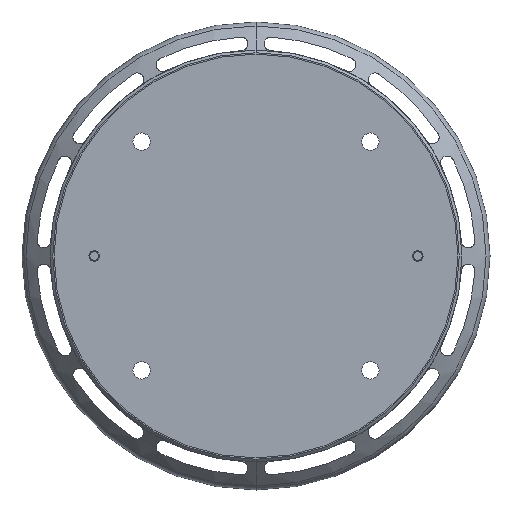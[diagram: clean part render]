
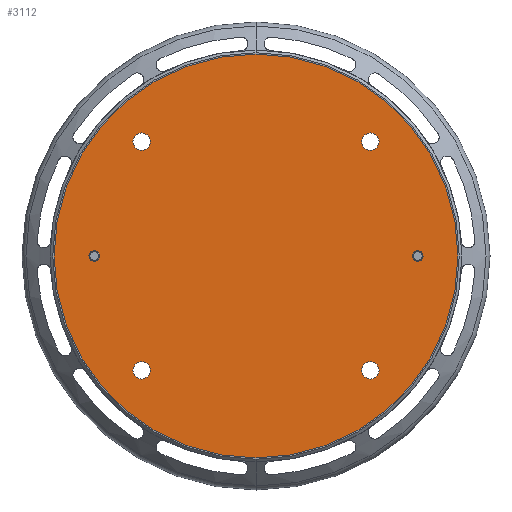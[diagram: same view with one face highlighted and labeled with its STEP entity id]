
A CAD part, front view. The second image highlights one B-rep face of the part: STEP entity #3112.
In plain terms, the highlighted planar face has unit normal (0, -1, 0).
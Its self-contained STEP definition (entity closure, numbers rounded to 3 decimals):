
#38 = DIRECTION ( 'NONE',  ( 0., -1., 0. ) ) ;
#58 = CARTESIAN_POINT ( 'NONE',  ( -37.44, -3.5, 0. ) ) ;
#68 = AXIS2_PLACEMENT_3D ( 'NONE', #409, #3932, #3492 ) ;
#115 = CIRCLE ( 'NONE', #2066, 0.975 ) ;
#136 = CARTESIAN_POINT ( 'NONE',  ( -21.213, -3.5, -21.213 ) ) ;
#178 = AXIS2_PLACEMENT_3D ( 'NONE', #4611, #4592, #1526 ) ;
#192 = VERTEX_POINT ( 'NONE', #4056 ) ;
#230 = CARTESIAN_POINT ( 'NONE',  ( -21.213, -3.5, 19.613 ) ) ;
#245 = DIRECTION ( 'NONE',  ( 0., 0., 1. ) ) ;
#272 = CARTESIAN_POINT ( 'NONE',  ( -30., -3.5, 0.975 ) ) ;
#394 = CIRCLE ( 'NONE', #5426, 1.6 ) ;
#409 = CARTESIAN_POINT ( 'NONE',  ( 0., -3.5, 0. ) ) ;
#466 = AXIS2_PLACEMENT_3D ( 'NONE', #5053, #1521, #3287 ) ;
#497 = PLANE ( 'NONE',  #2166 ) ;
#530 = DIRECTION ( 'NONE',  ( 0., 0., 1. ) ) ;
#618 = CARTESIAN_POINT ( 'NONE',  ( -21.213, -3.5, 21.213 ) ) ;
#649 = CIRCLE ( 'NONE', #2660, 1.6 ) ;
#670 = CIRCLE ( 'NONE', #466, 0.975 ) ;
#800 = ORIENTED_EDGE ( 'NONE', *, *, #4213, .T. ) ;
#818 = EDGE_CURVE ( 'NONE', #5027, #4876, #4511, .T. ) ;
#852 = EDGE_CURVE ( 'NONE', #4713, #4001, #5672, .T. ) ;
#869 = ORIENTED_EDGE ( 'NONE', *, *, #2417, .T. ) ;
#870 = CARTESIAN_POINT ( 'NONE',  ( 21.213, -3.5, -21.213 ) ) ;
#1005 = DIRECTION ( 'NONE',  ( 0., 1., 0. ) ) ;
#1081 = CIRCLE ( 'NONE', #5533, 1.6 ) ;
#1163 = AXIS2_PLACEMENT_3D ( 'NONE', #3887, #5208, #3428 ) ;
#1236 = ORIENTED_EDGE ( 'NONE', *, *, #818, .T. ) ;
#1267 = CARTESIAN_POINT ( 'NONE',  ( -21.213, -3.5, 22.813 ) ) ;
#1287 = EDGE_CURVE ( 'NONE', #3047, #192, #1081, .T. ) ;
#1360 = AXIS2_PLACEMENT_3D ( 'NONE', #3580, #38, #530 ) ;
#1428 = CARTESIAN_POINT ( 'NONE',  ( -21.213, -3.5, -22.813 ) ) ;
#1516 = AXIS2_PLACEMENT_3D ( 'NONE', #136, #1005, #3663 ) ;
#1520 = ORIENTED_EDGE ( 'NONE', *, *, #852, .T. ) ;
#1521 = DIRECTION ( 'NONE',  ( 0., -1., 0. ) ) ;
#1526 = DIRECTION ( 'NONE',  ( 0., 0., 1. ) ) ;
#1618 = AXIS2_PLACEMENT_3D ( 'NONE', #4444, #4009, #4895 ) ;
#1619 = CARTESIAN_POINT ( 'NONE',  ( 30., -3.5, 0. ) ) ;
#1679 = DIRECTION ( 'NONE',  ( 0., -1., 0. ) ) ;
#1719 = ORIENTED_EDGE ( 'NONE', *, *, #1981, .T. ) ;
#1787 = VERTEX_POINT ( 'NONE', #2708 ) ;
#1833 = CIRCLE ( 'NONE', #5278, 1.6 ) ;
#1896 = CIRCLE ( 'NONE', #1516, 1.6 ) ;
#1902 = CARTESIAN_POINT ( 'NONE',  ( 21.213, -3.5, 22.813 ) ) ;
#1915 = DIRECTION ( 'NONE',  ( 0., 0., 1. ) ) ;
#1967 = VERTEX_POINT ( 'NONE', #2874 ) ;
#1979 = CIRCLE ( 'NONE', #178, 0.975 ) ;
#1981 = EDGE_CURVE ( 'NONE', #3855, #4855, #4899, .T. ) ;
#2022 = EDGE_CURVE ( 'NONE', #4668, #1787, #115, .T. ) ;
#2066 = AXIS2_PLACEMENT_3D ( 'NONE', #1619, #1679, #5184 ) ;
#2120 = DIRECTION ( 'NONE',  ( 0., 0., 1. ) ) ;
#2149 = EDGE_LOOP ( 'NONE', ( #3584, #3076 ) ) ;
#2166 = AXIS2_PLACEMENT_3D ( 'NONE', #58, #2291, #2272 ) ;
#2185 = FACE_BOUND ( 'NONE', #2149, .T. ) ;
#2198 = FACE_BOUND ( 'NONE', #3815, .T. ) ;
#2210 = ORIENTED_EDGE ( 'NONE', *, *, #3020, .F. ) ;
#2272 = DIRECTION ( 'NONE',  ( 0., 0., 1. ) ) ;
#2289 = ORIENTED_EDGE ( 'NONE', *, *, #4945, .T. ) ;
#2291 = DIRECTION ( 'NONE',  ( 0., 1., 0. ) ) ;
#2301 = ORIENTED_EDGE ( 'NONE', *, *, #4375, .F. ) ;
#2414 = DIRECTION ( 'NONE',  ( 0., 1., 0. ) ) ;
#2417 = EDGE_CURVE ( 'NONE', #4855, #3855, #394, .T. ) ;
#2422 = VERTEX_POINT ( 'NONE', #1428 ) ;
#2529 = EDGE_CURVE ( 'NONE', #1787, #4668, #1979, .T. ) ;
#2545 = DIRECTION ( 'NONE',  ( 0., 1., 0. ) ) ;
#2655 = EDGE_LOOP ( 'NONE', ( #800, #2289 ) ) ;
#2660 = AXIS2_PLACEMENT_3D ( 'NONE', #5512, #3826, #245 ) ;
#2708 = CARTESIAN_POINT ( 'NONE',  ( 30., -3.5, 0.975 ) ) ;
#2834 = VERTEX_POINT ( 'NONE', #3603 ) ;
#2874 = CARTESIAN_POINT ( 'NONE',  ( -30., -3.5, -0.975 ) ) ;
#2921 = EDGE_LOOP ( 'NONE', ( #1719, #869 ) ) ;
#2994 = EDGE_LOOP ( 'NONE', ( #5171, #5420 ) ) ;
#3006 = DIRECTION ( 'NONE',  ( 0., 1., 0. ) ) ;
#3020 = EDGE_CURVE ( 'NONE', #1967, #5125, #670, .T. ) ;
#3047 = VERTEX_POINT ( 'NONE', #1902 ) ;
#3076 = ORIENTED_EDGE ( 'NONE', *, *, #5676, .T. ) ;
#3112 = ADVANCED_FACE ( 'NONE', ( #5163, #2198, #3863, #5236, #2185, #5564, #4075 ), #497, .F. ) ;
#3220 = CIRCLE ( 'NONE', #1163, 1.6 ) ;
#3287 = DIRECTION ( 'NONE',  ( 0., 0., 1. ) ) ;
#3428 = DIRECTION ( 'NONE',  ( 0., 0., 1. ) ) ;
#3492 = DIRECTION ( 'NONE',  ( 0., 0., -1. ) ) ;
#3580 = CARTESIAN_POINT ( 'NONE',  ( -30., -3.5, 0. ) ) ;
#3584 = ORIENTED_EDGE ( 'NONE', *, *, #1287, .T. ) ;
#3603 = CARTESIAN_POINT ( 'NONE',  ( -21.213, -3.5, -19.613 ) ) ;
#3663 = DIRECTION ( 'NONE',  ( 0., 0., 1. ) ) ;
#3708 = CIRCLE ( 'NONE', #1360, 0.975 ) ;
#3807 = EDGE_CURVE ( 'NONE', #4001, #4713, #5630, .T. ) ;
#3815 = EDGE_LOOP ( 'NONE', ( #2301, #2210 ) ) ;
#3826 = DIRECTION ( 'NONE',  ( 0., 1., 0. ) ) ;
#3855 = VERTEX_POINT ( 'NONE', #1267 ) ;
#3863 = FACE_BOUND ( 'NONE', #2655, .T. ) ;
#3887 = CARTESIAN_POINT ( 'NONE',  ( -21.213, -3.5, -21.213 ) ) ;
#3928 = AXIS2_PLACEMENT_3D ( 'NONE', #4655, #3006, #2120 ) ;
#3932 = DIRECTION ( 'NONE',  ( 0., -1., 0. ) ) ;
#4001 = VERTEX_POINT ( 'NONE', #5024 ) ;
#4009 = DIRECTION ( 'NONE',  ( 0., -1., 0. ) ) ;
#4056 = CARTESIAN_POINT ( 'NONE',  ( 21.213, -3.5, 19.613 ) ) ;
#4075 = FACE_OUTER_BOUND ( 'NONE', #5431, .T. ) ;
#4141 = DIRECTION ( 'NONE',  ( 0., 1., 0. ) ) ;
#4156 = DIRECTION ( 'NONE',  ( 0., 0., 1. ) ) ;
#4159 = EDGE_LOOP ( 'NONE', ( #5693, #1236 ) ) ;
#4185 = CARTESIAN_POINT ( 'NONE',  ( 21.213, -3.5, -22.813 ) ) ;
#4213 = EDGE_CURVE ( 'NONE', #2834, #2422, #3220, .T. ) ;
#4215 = AXIS2_PLACEMENT_3D ( 'NONE', #870, #4352, #5677 ) ;
#4247 = EDGE_CURVE ( 'NONE', #4876, #5027, #1833, .T. ) ;
#4313 = CARTESIAN_POINT ( 'NONE',  ( 30., -3.5, -0.975 ) ) ;
#4322 = CARTESIAN_POINT ( 'NONE',  ( 21.213, -3.5, -19.613 ) ) ;
#4332 = CARTESIAN_POINT ( 'NONE',  ( 0., -3.5, 37.44 ) ) ;
#4341 = DIRECTION ( 'NONE',  ( 0., 0., 1. ) ) ;
#4352 = DIRECTION ( 'NONE',  ( 0., 1., 0. ) ) ;
#4360 = CARTESIAN_POINT ( 'NONE',  ( 21.213, -3.5, -21.213 ) ) ;
#4375 = EDGE_CURVE ( 'NONE', #5125, #1967, #3708, .T. ) ;
#4444 = CARTESIAN_POINT ( 'NONE',  ( 0., -3.5, 0. ) ) ;
#4511 = CIRCLE ( 'NONE', #4215, 1.6 ) ;
#4575 = CARTESIAN_POINT ( 'NONE',  ( 21.213, -3.5, 21.213 ) ) ;
#4592 = DIRECTION ( 'NONE',  ( 0., -1., 0. ) ) ;
#4611 = CARTESIAN_POINT ( 'NONE',  ( 30., -3.5, 0. ) ) ;
#4655 = CARTESIAN_POINT ( 'NONE',  ( -21.213, -3.5, 21.213 ) ) ;
#4668 = VERTEX_POINT ( 'NONE', #4313 ) ;
#4713 = VERTEX_POINT ( 'NONE', #4332 ) ;
#4855 = VERTEX_POINT ( 'NONE', #230 ) ;
#4876 = VERTEX_POINT ( 'NONE', #4322 ) ;
#4895 = DIRECTION ( 'NONE',  ( 0., 0., -1. ) ) ;
#4899 = CIRCLE ( 'NONE', #3928, 1.6 ) ;
#4945 = EDGE_CURVE ( 'NONE', #2422, #2834, #1896, .T. ) ;
#5024 = CARTESIAN_POINT ( 'NONE',  ( 0., -3.5, -37.44 ) ) ;
#5027 = VERTEX_POINT ( 'NONE', #4185 ) ;
#5053 = CARTESIAN_POINT ( 'NONE',  ( -30., -3.5, 0. ) ) ;
#5125 = VERTEX_POINT ( 'NONE', #272 ) ;
#5163 = FACE_BOUND ( 'NONE', #2994, .T. ) ;
#5171 = ORIENTED_EDGE ( 'NONE', *, *, #2529, .F. ) ;
#5184 = DIRECTION ( 'NONE',  ( 0., 0., 1. ) ) ;
#5208 = DIRECTION ( 'NONE',  ( 0., 1., 0. ) ) ;
#5236 = FACE_BOUND ( 'NONE', #4159, .T. ) ;
#5278 = AXIS2_PLACEMENT_3D ( 'NONE', #4360, #2545, #4341 ) ;
#5404 = ORIENTED_EDGE ( 'NONE', *, *, #3807, .T. ) ;
#5420 = ORIENTED_EDGE ( 'NONE', *, *, #2022, .F. ) ;
#5426 = AXIS2_PLACEMENT_3D ( 'NONE', #618, #4141, #4156 ) ;
#5431 = EDGE_LOOP ( 'NONE', ( #5404, #1520 ) ) ;
#5512 = CARTESIAN_POINT ( 'NONE',  ( 21.213, -3.5, 21.213 ) ) ;
#5533 = AXIS2_PLACEMENT_3D ( 'NONE', #4575, #2414, #1915 ) ;
#5564 = FACE_BOUND ( 'NONE', #2921, .T. ) ;
#5630 = CIRCLE ( 'NONE', #68, 37.44 ) ;
#5672 = CIRCLE ( 'NONE', #1618, 37.44 ) ;
#5676 = EDGE_CURVE ( 'NONE', #192, #3047, #649, .T. ) ;
#5677 = DIRECTION ( 'NONE',  ( 0., 0., 1. ) ) ;
#5693 = ORIENTED_EDGE ( 'NONE', *, *, #4247, .T. ) ;
